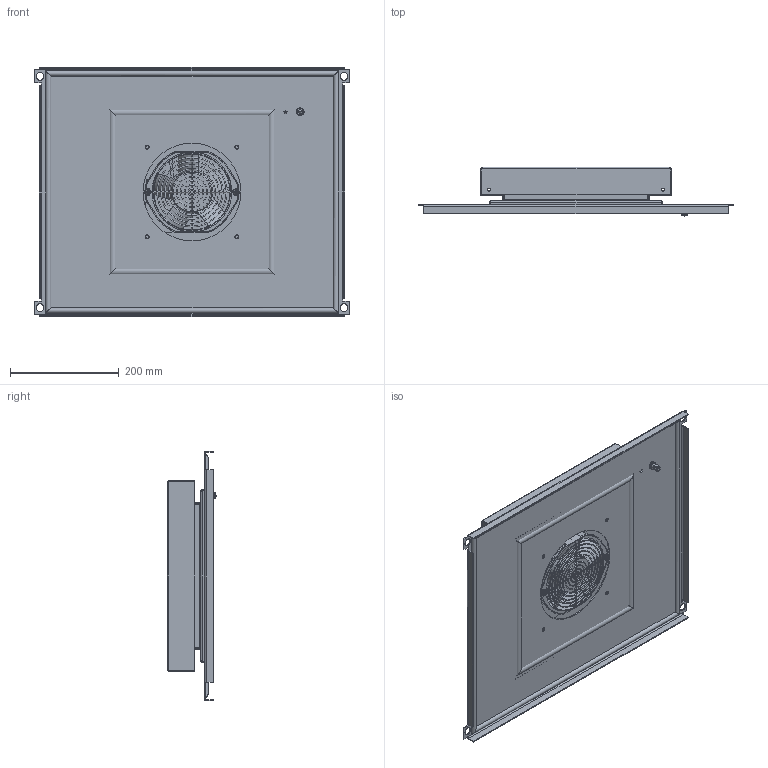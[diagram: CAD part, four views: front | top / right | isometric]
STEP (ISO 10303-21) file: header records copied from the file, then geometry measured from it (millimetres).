
FILE_DESCRIPTION (( 'STEP AP203' ), '1' );
FILE_NAME ('p2tp65.STEP', '2016-05-31T18:31:47', ( '' ), ( '' ), 'SwSTEP 2.0', 'SolidWorks 2014', '' );
FILE_SCHEMA (( 'CONFIG_CONTROL_DESIGN' ));
Length unit declared in the file: millimetre
Products named in the file (24): 99401314_99401314; 89131635; 89135923_89129432; 87558056_87558056; 30197001; 89135926; 87558972_90353A223; 87557541; 89131646; 89131640_89131640; 45170001; 89135924_89124192; 89131634; 89131645; 87931527_87931527; p2tp65; 89131636; 87931368_SLEEVE; 99401301_B18.21.2M-External Tooth Lock Washers_AM6; 45185001_installed; 60100041_60100041; 99401230; 99404737_PEM S-M4-1 ZI--N; 89135925
Assembly tree (31 placements, depth 5):
  p2tp65
    89135926
      89135925
        89135924_89124192
        60100041_60100041
          87931527_87931527
          87931368_SLEEVE
      89135923_89129432
    89131645
      89131646
      45170001  x4
    89131634
      89131635
        89131636
        45185001_installed
        99404737_PEM S-M4-1 ZI--N  x2
      30197001  x2
      87557541
      99401301_B18.21.2M-External Tooth Lock Washers_AM6  x3
      99401230
      99401314_99401314
      87558056_87558056
      87558972_90353A223  x2
      89131640_89131640
Bounding box: 579 x 91.45 x 459.04 mm (x, y, z)
Volume: 1547627.4 mm3; surface area: 1379095.3 mm2
Topology: 53 solids, 53 shells, 1352 faces, 3321 edges, 2074 vertices
Faces by surface type: plane 627, cylinder 447, torus 142, cone 80, bspline 32, sphere 24
Entity records: 36417 total; most frequent: CARTESIAN_POINT 10938, ORIENTED_EDGE 4802, DIRECTION 4571, EDGE_CURVE 2401, AXIS2_PLACEMENT_3D 1581, VERTEX_POINT 1489, LINE 1409, VECTOR 1409
